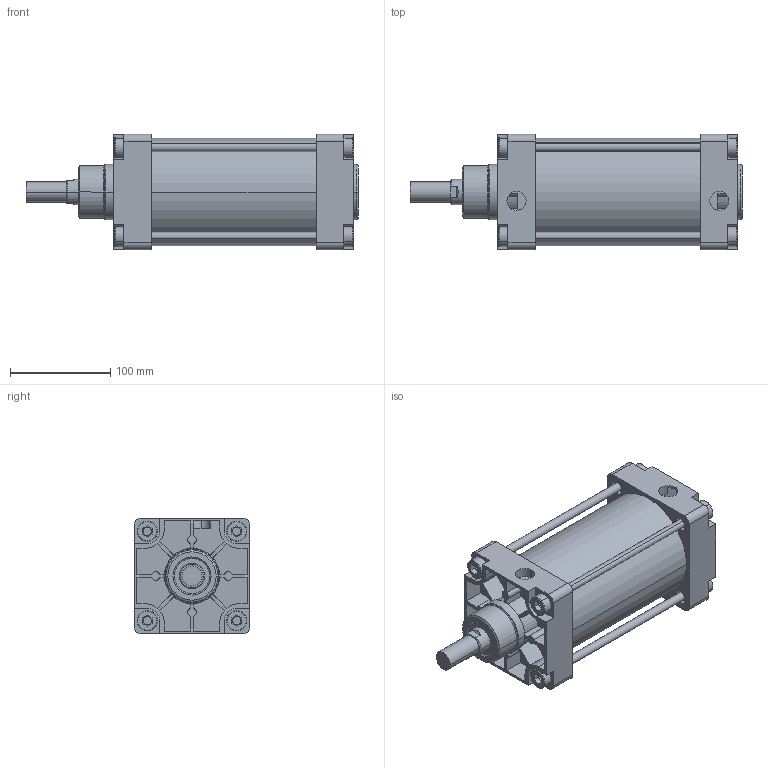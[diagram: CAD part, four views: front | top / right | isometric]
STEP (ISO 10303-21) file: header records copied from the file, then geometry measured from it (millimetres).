
FILE_DESCRIPTION(('CATIA V5 STEP Exchange'),'2;1');
FILE_NAME('D:\stp file for catalog\PNC\100\PNC 100-25-100.stp','2015-10-17T07:28:25+00:00',('none'),('none'),'Version 5-6 Release 2012','CATIA V5 STEP AP203','none');
FILE_SCHEMA(('CONFIG_CONTROL_DESIGN'));
Length unit declared in the file: millimetre
Products named in the file (1): PNC 100-25-100-00
Assembly tree (2 placements, depth 2):
  PNC 100-25-100-00
    #58
    #14124
Bounding box: 330.5 x 115 x 115 mm (x, y, z)
Volume: 1552905.9 mm3; surface area: 328150.5 mm2
Topology: 6 solids, 6 shells, 534 faces, 1388 edges, 914 vertices
Faces by surface type: plane 336, cylinder 166, torus 26, cone 6
Entity records: 14648 total; most frequent: ORIENTED_EDGE 2776, CARTESIAN_POINT 2587, DIRECTION 1886, EDGE_CURVE 1388, VECTOR 922, LINE 922, VERTEX_POINT 914, AXIS2_PLACEMENT_3D 711
